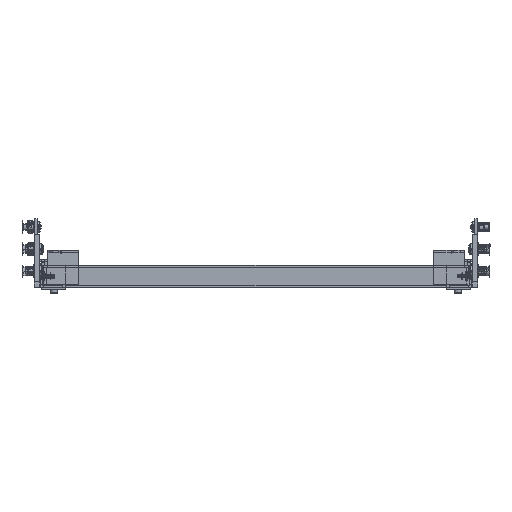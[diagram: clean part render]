
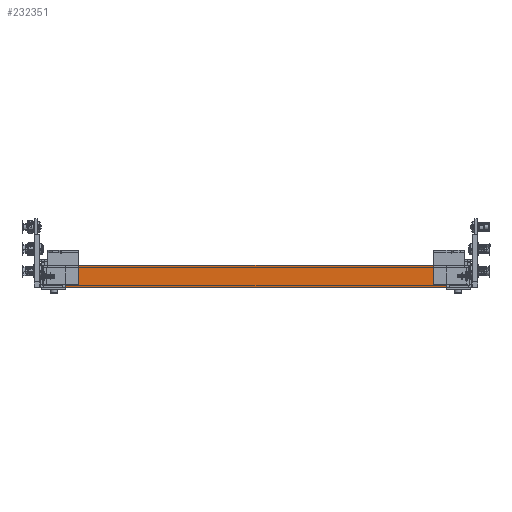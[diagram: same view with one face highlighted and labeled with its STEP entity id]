
A CAD part, front view. The second image highlights one B-rep face of the part: STEP entity #232351.
In plain terms, the highlighted planar face has unit normal (0, -1, 0) as drawn and (-1, 0, 0) by its records, which use the part's own axes.
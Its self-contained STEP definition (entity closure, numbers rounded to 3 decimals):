
#635 = VERTEX_POINT ( 'NONE', #112034 ) ;
#1028 = VECTOR ( 'NONE', #128205, 1000. ) ;
#1171 = LINE ( 'NONE', #261729, #85386 ) ;
#4802 = LINE ( 'NONE', #162534, #108940 ) ;
#10669 = EDGE_CURVE ( 'NONE', #178952, #133191, #229637, .T. ) ;
#15183 = VERTEX_POINT ( 'NONE', #76811 ) ;
#15583 = ORIENTED_EDGE ( 'NONE', *, *, #87664, .T. ) ;
#21884 = EDGE_CURVE ( 'NONE', #220510, #178952, #132707, .T. ) ;
#23985 = EDGE_CURVE ( 'NONE', #635, #151530, #4802, .T. ) ;
#25131 = EDGE_CURVE ( 'NONE', #75461, #15183, #262753, .T. ) ;
#27279 = CARTESIAN_POINT ( 'NONE',  ( -941.51, 214.5, 2.5 ) ) ;
#34958 = EDGE_CURVE ( 'NONE', #217105, #635, #179415, .T. ) ;
#35055 = AXIS2_PLACEMENT_3D ( 'NONE', #236345, #255041, #93436 ) ;
#36658 = ORIENTED_EDGE ( 'NONE', *, *, #10669, .T. ) ;
#37930 = CARTESIAN_POINT ( 'NONE',  ( -941.51, 214.5, 0. ) ) ;
#45958 = CARTESIAN_POINT ( 'NONE',  ( -941.51, 214.5, 3.1 ) ) ;
#52584 = LINE ( 'NONE', #27279, #113741 ) ;
#55001 = ORIENTED_EDGE ( 'NONE', *, *, #205029, .F. ) ;
#60022 = DIRECTION ( 'NONE',  ( 0., 0., 1. ) ) ;
#75461 = VERTEX_POINT ( 'NONE', #202424 ) ;
#76811 = CARTESIAN_POINT ( 'NONE',  ( -941.51, -214.5, 21.9 ) ) ;
#85386 = VECTOR ( 'NONE', #60022, 1000. ) ;
#87664 = EDGE_CURVE ( 'NONE', #217105, #220510, #52584, .T. ) ;
#93436 = DIRECTION ( 'NONE',  ( 0., 0., -1. ) ) ;
#96874 = ORIENTED_EDGE ( 'NONE', *, *, #25131, .T. ) ;
#108940 = VECTOR ( 'NONE', #141172, 1000. ) ;
#110836 = FACE_OUTER_BOUND ( 'NONE', #133768, .T. ) ;
#111397 = DIRECTION ( 'NONE',  ( 0., 0., -1. ) ) ;
#112034 = CARTESIAN_POINT ( 'NONE',  ( -941.51, 214.5, 25. ) ) ;
#112663 = DIRECTION ( 'NONE',  ( 0., 0., -1. ) ) ;
#113741 = VECTOR ( 'NONE', #111397, 1000. ) ;
#115340 = CARTESIAN_POINT ( 'NONE',  ( -941.51, 214.5, 2.5 ) ) ;
#128205 = DIRECTION ( 'NONE',  ( 0., 0., -1. ) ) ;
#132707 = LINE ( 'NONE', #45958, #159303 ) ;
#133191 = VERTEX_POINT ( 'NONE', #176342 ) ;
#133768 = EDGE_LOOP ( 'NONE', ( #96874, #251627, #254189, #202797, #15583, #211393, #36658, #55001 ) ) ;
#136705 = DIRECTION ( 'NONE',  ( 0., 0., 1. ) ) ;
#138289 = VECTOR ( 'NONE', #136705, 1000. ) ;
#141172 = DIRECTION ( 'NONE',  ( 0., -1., 0. ) ) ;
#144713 = CARTESIAN_POINT ( 'NONE',  ( -941.51, -214.5, 25. ) ) ;
#149567 = LINE ( 'NONE', #228445, #1028 ) ;
#151530 = VERTEX_POINT ( 'NONE', #144713 ) ;
#153436 = VECTOR ( 'NONE', #253621, 1000. ) ;
#159303 = VECTOR ( 'NONE', #112663, 1000. ) ;
#161159 = CARTESIAN_POINT ( 'NONE',  ( -941.51, 214.5, 3.1 ) ) ;
#162392 = EDGE_CURVE ( 'NONE', #15183, #151530, #1171, .T. ) ;
#162534 = CARTESIAN_POINT ( 'NONE',  ( -941.51, 214.5, 25. ) ) ;
#164809 = VECTOR ( 'NONE', #264054, 1000. ) ;
#172176 = CARTESIAN_POINT ( 'NONE',  ( -941.51, -240.5, 0. ) ) ;
#173617 = PLANE ( 'NONE',  #35055 ) ;
#176342 = CARTESIAN_POINT ( 'NONE',  ( -941.51, -214.5, 0. ) ) ;
#178952 = VERTEX_POINT ( 'NONE', #37930 ) ;
#179415 = LINE ( 'NONE', #115340, #138289 ) ;
#202424 = CARTESIAN_POINT ( 'NONE',  ( -941.51, -214.5, 3.1 ) ) ;
#202797 = ORIENTED_EDGE ( 'NONE', *, *, #34958, .F. ) ;
#205029 = EDGE_CURVE ( 'NONE', #75461, #133191, #149567, .T. ) ;
#211393 = ORIENTED_EDGE ( 'NONE', *, *, #21884, .T. ) ;
#213805 = CARTESIAN_POINT ( 'NONE',  ( -941.51, 214.5, 21.9 ) ) ;
#217105 = VERTEX_POINT ( 'NONE', #213805 ) ;
#220510 = VERTEX_POINT ( 'NONE', #161159 ) ;
#228445 = CARTESIAN_POINT ( 'NONE',  ( -941.51, -214.5, 2.5 ) ) ;
#229637 = LINE ( 'NONE', #172176, #153436 ) ;
#232351 = ADVANCED_FACE ( 'NONE', ( #110836 ), #173617, .F. ) ;
#236345 = CARTESIAN_POINT ( 'NONE',  ( -941.51, 214.5, 2.5 ) ) ;
#241409 = CARTESIAN_POINT ( 'NONE',  ( -941.51, -214.5, 2.5 ) ) ;
#251627 = ORIENTED_EDGE ( 'NONE', *, *, #162392, .T. ) ;
#253621 = DIRECTION ( 'NONE',  ( 0., -1., 0. ) ) ;
#254189 = ORIENTED_EDGE ( 'NONE', *, *, #23985, .F. ) ;
#255041 = DIRECTION ( 'NONE',  ( 1., 0., 0. ) ) ;
#261729 = CARTESIAN_POINT ( 'NONE',  ( -941.51, -214.5, 21.9 ) ) ;
#262753 = LINE ( 'NONE', #241409, #164809 ) ;
#264054 = DIRECTION ( 'NONE',  ( 0., 0., 1. ) ) ;
